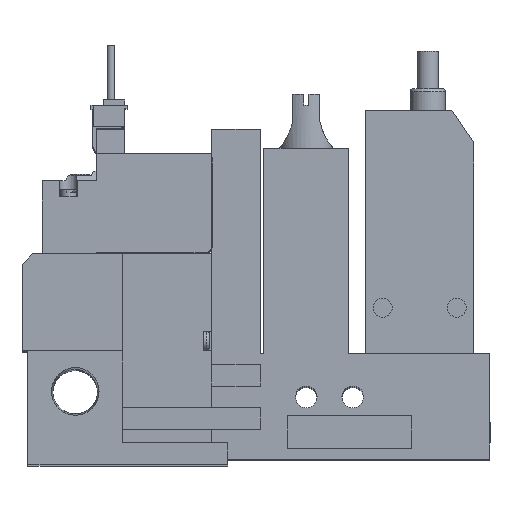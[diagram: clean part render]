
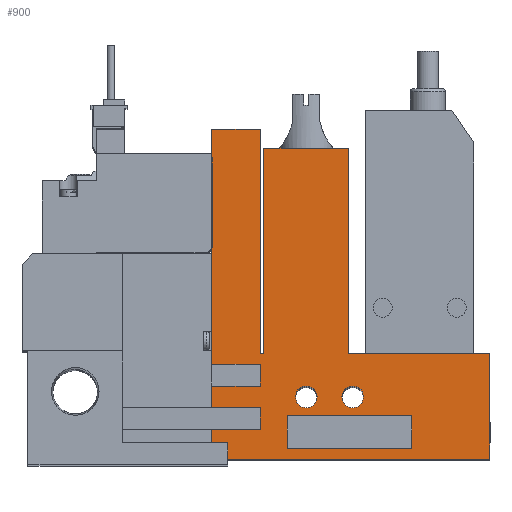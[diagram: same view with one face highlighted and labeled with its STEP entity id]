
A CAD part, top view. The second image highlights one B-rep face of the part: STEP entity #900.
In plain terms, the highlighted planar face has unit normal (0, 0, 1).
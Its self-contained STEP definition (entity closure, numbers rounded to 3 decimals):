
#900=ADVANCED_FACE('',(#1771,#1772,#1773,#1774),#1775,.T.);
#1771=FACE_OUTER_BOUND('',#2951,.T.);
#1772=FACE_BOUND('',#2952,.T.);
#1773=FACE_BOUND('',#2953,.T.);
#1774=FACE_BOUND('',#2954,.T.);
#1775=PLANE('',#2955);
#2951=EDGE_LOOP('',(#6048,#6049,#6050,#6051,#6052,#6053,#6054,#6055,#6056,#6057,#6058,#6059,#6060,#6061,#6062,#6063,#6064,#6065));
#2952=EDGE_LOOP('',(#6066,#6067,#6068,#6069));
#2953=EDGE_LOOP('',(#6070));
#2954=EDGE_LOOP('',(#6071));
#2955=AXIS2_PLACEMENT_3D('',#6072,#6073,#6074);
#6048=ORIENTED_EDGE('',*,*,#8036,.T.);
#6049=ORIENTED_EDGE('',*,*,#8071,.T.);
#6050=ORIENTED_EDGE('',*,*,#7987,.T.);
#6051=ORIENTED_EDGE('',*,*,#8073,.T.);
#6052=ORIENTED_EDGE('',*,*,#7935,.T.);
#6053=ORIENTED_EDGE('',*,*,#8086,.T.);
#6054=ORIENTED_EDGE('',*,*,#8020,.T.);
#6055=ORIENTED_EDGE('',*,*,#8077,.T.);
#6056=ORIENTED_EDGE('',*,*,#8076,.T.);
#6057=ORIENTED_EDGE('',*,*,#8007,.T.);
#6058=ORIENTED_EDGE('',*,*,#7989,.T.);
#6059=ORIENTED_EDGE('',*,*,#8064,.T.);
#6060=ORIENTED_EDGE('',*,*,#8087,.T.);
#6061=ORIENTED_EDGE('',*,*,#8068,.T.);
#6062=ORIENTED_EDGE('',*,*,#8083,.T.);
#6063=ORIENTED_EDGE('',*,*,#7995,.T.);
#6064=ORIENTED_EDGE('',*,*,#8084,.T.);
#6065=ORIENTED_EDGE('',*,*,#8081,.T.);
#6066=ORIENTED_EDGE('',*,*,#7921,.T.);
#6067=ORIENTED_EDGE('',*,*,#7914,.T.);
#6068=ORIENTED_EDGE('',*,*,#8080,.T.);
#6069=ORIENTED_EDGE('',*,*,#8015,.T.);
#6070=ORIENTED_EDGE('',*,*,#8042,.T.);
#6071=ORIENTED_EDGE('',*,*,#8041,.T.);
#6072=CARTESIAN_POINT('',(0.0,0.0,10.0));
#6073=DIRECTION('',(0.0,0.0,1.0));
#6074=DIRECTION('',(1.0,0.0,0.0));
#7914=EDGE_CURVE('',#9538,#9543,#9545,.T.);
#7921=EDGE_CURVE('',#9554,#9538,#9558,.T.);
#7935=EDGE_CURVE('',#9585,#9583,#9586,.T.);
#7987=EDGE_CURVE('',#9674,#9679,#9681,.T.);
#7989=EDGE_CURVE('',#9684,#9682,#9685,.T.);
#7995=EDGE_CURVE('',#9694,#9692,#9695,.T.);
#8007=EDGE_CURVE('',#9713,#9684,#9714,.T.);
#8015=EDGE_CURVE('',#9722,#9554,#9726,.T.);
#8020=EDGE_CURVE('',#9728,#9733,#9735,.T.);
#8036=EDGE_CURVE('',#9761,#9759,#9762,.T.);
#8041=EDGE_CURVE('',#9770,#9770,#9771,.T.);
#8042=EDGE_CURVE('',#9772,#9772,#9773,.T.);
#8064=EDGE_CURVE('',#9682,#9800,#9802,.T.);
#8068=EDGE_CURVE('',#9807,#9805,#9808,.T.);
#8071=EDGE_CURVE('',#9759,#9674,#9811,.T.);
#8073=EDGE_CURVE('',#9679,#9585,#9813,.T.);
#8076=EDGE_CURVE('',#9815,#9713,#9817,.T.);
#8077=EDGE_CURVE('',#9733,#9815,#9818,.T.);
#8080=EDGE_CURVE('',#9543,#9722,#9822,.T.);
#8081=EDGE_CURVE('',#9823,#9761,#9824,.T.);
#8083=EDGE_CURVE('',#9805,#9694,#9826,.T.);
#8084=EDGE_CURVE('',#9692,#9823,#9827,.T.);
#8086=EDGE_CURVE('',#9583,#9728,#9829,.T.);
#8087=EDGE_CURVE('',#9800,#9807,#9830,.T.);
#9538=VERTEX_POINT('',#12173);
#9543=VERTEX_POINT('',#12180);
#9545=LINE('',#12183,#12184);
#9554=VERTEX_POINT('',#12197);
#9558=LINE('',#12203,#12204);
#9583=VERTEX_POINT('',#12241);
#9585=VERTEX_POINT('',#12244);
#9586=LINE('',#12245,#12246);
#9674=VERTEX_POINT('',#12378);
#9679=VERTEX_POINT('',#12385);
#9681=LINE('',#12388,#12389);
#9682=VERTEX_POINT('',#12390);
#9684=VERTEX_POINT('',#12393);
#9685=LINE('',#12394,#12395);
#9692=VERTEX_POINT('',#12406);
#9694=VERTEX_POINT('',#12409);
#9695=LINE('',#12410,#12411);
#9713=VERTEX_POINT('',#12440);
#9714=LINE('',#12441,#12442);
#9722=VERTEX_POINT('',#12455);
#9726=LINE('',#12461,#12462);
#9728=VERTEX_POINT('',#12465);
#9733=VERTEX_POINT('',#12472);
#9735=LINE('',#12475,#12476);
#9759=VERTEX_POINT('',#12510);
#9761=VERTEX_POINT('',#12513);
#9762=LINE('',#12514,#12515);
#9770=VERTEX_POINT('',#12524);
#9771=CIRCLE('',#12525,2.0);
#9772=VERTEX_POINT('',#12526);
#9773=CIRCLE('',#12527,2.0);
#9800=VERTEX_POINT('',#12572);
#9802=LINE('',#12575,#12576);
#9805=VERTEX_POINT('',#12581);
#9807=VERTEX_POINT('',#12584);
#9808=LINE('',#12585,#12586);
#9811=LINE('',#12591,#12592);
#9813=LINE('',#12595,#12596);
#9815=VERTEX_POINT('',#12599);
#9817=LINE('',#12602,#12603);
#9818=LINE('',#12604,#12605);
#9822=LINE('',#12611,#12612);
#9823=VERTEX_POINT('',#12613);
#9824=LINE('',#12614,#12615);
#9826=LINE('',#12618,#12619);
#9827=LINE('',#12620,#12621);
#9829=LINE('',#12624,#12625);
#9830=LINE('',#12626,#12627);
#12173=CARTESIAN_POINT('',(49.1,8.0,10.0));
#12180=CARTESIAN_POINT('',(72.1,8.0,10.0));
#12183=CARTESIAN_POINT('',(0.0,8.0,10.0));
#12184=VECTOR('',#14492,1.0);
#12197=CARTESIAN_POINT('',(49.1,2.0,10.0));
#12203=CARTESIAN_POINT('',(49.1,0.0,10.0));
#12204=VECTOR('',#14499,1.0);
#12241=CARTESIAN_POINT('',(35.1,9.5,10.0));
#12244=CARTESIAN_POINT('',(35.1,13.5,10.0));
#12245=CARTESIAN_POINT('',(35.1,0.0,10.0));
#12246=VECTOR('',#14513,1.0);
#12378=CARTESIAN_POINT('',(44.1,17.5,10.0));
#12385=CARTESIAN_POINT('',(44.1,13.5,10.0));
#12388=CARTESIAN_POINT('',(44.1,0.0,10.0));
#12389=VECTOR('',#14573,1.0);
#12390=CARTESIAN_POINT('',(86.6,19.5,10.0));
#12393=CARTESIAN_POINT('',(86.6,0.0,10.0));
#12394=CARTESIAN_POINT('',(86.6,0.0,10.0));
#12395=VECTOR('',#14575,1.0);
#12406=CARTESIAN_POINT('',(44.1,19.5,10.0));
#12409=CARTESIAN_POINT('',(44.75,19.5,10.0));
#12410=CARTESIAN_POINT('',(44.75,19.5,10.0));
#12411=VECTOR('',#14581,1.0);
#12440=CARTESIAN_POINT('',(35.1,0.0,10.0));
#12441=CARTESIAN_POINT('',(18.6,0.0,10.0));
#12442=VECTOR('',#14593,1.0);
#12455=CARTESIAN_POINT('',(72.1,2.0,10.0));
#12461=CARTESIAN_POINT('',(0.0,2.0,10.0));
#12462=VECTOR('',#14601,1.0);
#12465=CARTESIAN_POINT('',(44.1,9.5,10.0));
#12472=CARTESIAN_POINT('',(44.1,5.5,10.0));
#12475=CARTESIAN_POINT('',(44.1,0.0,10.0));
#12476=VECTOR('',#14606,1.0);
#12510=CARTESIAN_POINT('',(35.1,17.5,10.0));
#12513=CARTESIAN_POINT('',(35.1,61.0,10.0));
#12514=CARTESIAN_POINT('',(35.1,61.0,10.0));
#12515=VECTOR('',#14630,1.0);
#12524=CARTESIAN_POINT('',(63.2,11.5,10.0));
#12525=AXIS2_PLACEMENT_3D('',#14641,#14642,#14643);
#12526=CARTESIAN_POINT('',(54.6,11.5,10.0));
#12527=AXIS2_PLACEMENT_3D('',#14644,#14645,#14646);
#12572=CARTESIAN_POINT('',(60.45,19.5,10.0));
#12575=CARTESIAN_POINT('',(86.6,19.5,10.0));
#12576=VECTOR('',#14669,1.0);
#12581=CARTESIAN_POINT('',(44.75,57.5,10.0));
#12584=CARTESIAN_POINT('',(60.45,57.5,10.0));
#12585=CARTESIAN_POINT('',(60.45,57.5,10.0));
#12586=VECTOR('',#14673,1.0);
#12591=CARTESIAN_POINT('',(0.0,17.5,10.0));
#12592=VECTOR('',#14676,1.0);
#12595=CARTESIAN_POINT('',(0.0,13.5,10.0));
#12596=VECTOR('',#14678,1.0);
#12599=CARTESIAN_POINT('',(35.1,5.5,10.0));
#12602=CARTESIAN_POINT('',(35.1,0.0,10.0));
#12603=VECTOR('',#14681,1.0);
#12604=CARTESIAN_POINT('',(0.0,5.5,10.0));
#12605=VECTOR('',#14682,1.0);
#12611=CARTESIAN_POINT('',(72.1,0.0,10.0));
#12612=VECTOR('',#14685,1.0);
#12613=CARTESIAN_POINT('',(44.1,61.0,10.0));
#12614=CARTESIAN_POINT('',(44.1,61.0,10.0));
#12615=VECTOR('',#14686,1.0);
#12618=CARTESIAN_POINT('',(44.75,57.5,10.0));
#12619=VECTOR('',#14688,1.0);
#12620=CARTESIAN_POINT('',(44.1,19.5,10.0));
#12621=VECTOR('',#14689,1.0);
#12624=CARTESIAN_POINT('',(0.0,9.5,10.0));
#12625=VECTOR('',#14691,1.0);
#12626=CARTESIAN_POINT('',(60.45,19.5,10.0));
#12627=VECTOR('',#14692,1.0);
#14492=DIRECTION('',(1.0,0.0,0.0));
#14499=DIRECTION('',(0.0,1.0,0.0));
#14513=DIRECTION('',(0.0,-1.0,0.0));
#14573=DIRECTION('',(0.0,-1.0,0.0));
#14575=DIRECTION('',(0.0,1.0,0.0));
#14581=DIRECTION('',(-1.0,0.0,0.0));
#14593=DIRECTION('',(1.0,0.0,0.0));
#14601=DIRECTION('',(-1.0,0.0,0.0));
#14606=DIRECTION('',(0.0,-1.0,0.0));
#14630=DIRECTION('',(0.0,-1.0,0.0));
#14641=CARTESIAN_POINT('',(61.2,11.5,10.0));
#14642=DIRECTION('',(0.0,0.0,-1.0));
#14643=DIRECTION('',(1.0,0.0,0.0));
#14644=CARTESIAN_POINT('',(52.6,11.5,10.0));
#14645=DIRECTION('',(0.0,0.0,-1.0));
#14646=DIRECTION('',(1.0,0.0,0.0));
#14669=DIRECTION('',(-1.0,0.0,0.0));
#14673=DIRECTION('',(-1.0,0.0,0.0));
#14676=DIRECTION('',(1.0,0.0,0.0));
#14678=DIRECTION('',(-1.0,0.0,0.0));
#14681=DIRECTION('',(0.0,-1.0,0.0));
#14682=DIRECTION('',(-1.0,0.0,0.0));
#14685=DIRECTION('',(0.0,-1.0,0.0));
#14686=DIRECTION('',(-1.0,0.0,0.0));
#14688=DIRECTION('',(0.0,-1.0,0.0));
#14689=DIRECTION('',(0.0,1.0,0.0));
#14691=DIRECTION('',(1.0,0.0,0.0));
#14692=DIRECTION('',(0.0,1.0,0.0));
